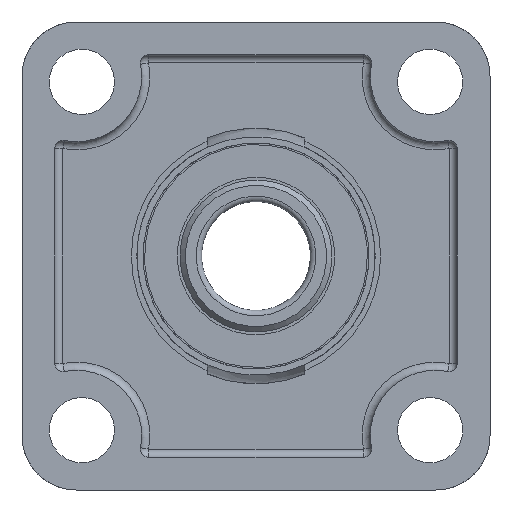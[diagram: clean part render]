
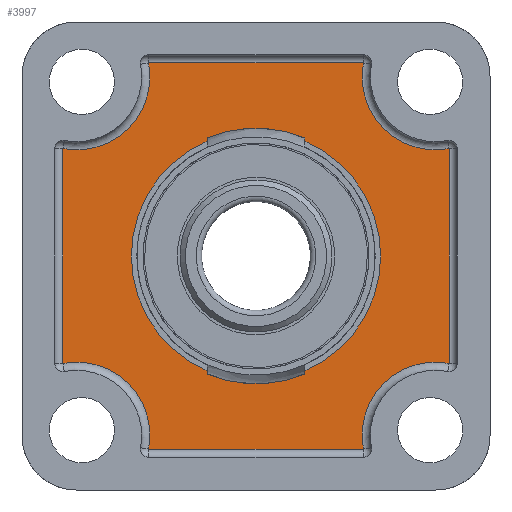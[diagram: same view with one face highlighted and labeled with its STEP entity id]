
A CAD part, front view. The second image highlights one B-rep face of the part: STEP entity #3997.
In plain terms, the highlighted planar face has unit normal (0, -1, 0).
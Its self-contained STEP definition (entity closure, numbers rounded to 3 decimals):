
#234=FACE_BOUND('',#586,.T.);
#351=FACE_OUTER_BOUND('',#585,.T.);
#585=EDGE_LOOP('',(#2647,#2648,#2649,#2650,#2651,#2652,#2653,#2654));
#586=EDGE_LOOP('',(#2655,#2656,#2657,#2658,#2659,#2660,#2661,#2662));
#857=CIRCLE('',#4312,23.5);
#860=CIRCLE('',#4317,13.5);
#861=CIRCLE('',#4318,13.5);
#862=CIRCLE('',#4319,13.5);
#863=CIRCLE('',#4320,13.5);
#864=CIRCLE('',#4321,22.909);
#865=CIRCLE('',#4322,23.5);
#866=CIRCLE('',#4323,22.909);
#1242=LINE('',#6337,#1392);
#1250=LINE('',#6357,#1400);
#1251=LINE('',#6366,#1401);
#1252=LINE('',#6370,#1402);
#1253=LINE('',#6374,#1403);
#1254=LINE('',#6378,#1404);
#1255=LINE('',#6383,#1405);
#1256=LINE('',#6387,#1406);
#1392=VECTOR('',#4937,10.);
#1400=VECTOR('',#4951,10.);
#1401=VECTOR('',#4964,10.);
#1402=VECTOR('',#4967,10.);
#1403=VECTOR('',#4970,10.);
#1404=VECTOR('',#4973,10.);
#1405=VECTOR('',#4978,10.);
#1406=VECTOR('',#4981,10.);
#1541=VERTEX_POINT('',#6333);
#1543=VERTEX_POINT('',#6336);
#1548=VERTEX_POINT('',#6347);
#1552=VERTEX_POINT('',#6355);
#1553=VERTEX_POINT('',#6364);
#1554=VERTEX_POINT('',#6365);
#1555=VERTEX_POINT('',#6367);
#1556=VERTEX_POINT('',#6369);
#1557=VERTEX_POINT('',#6371);
#1558=VERTEX_POINT('',#6373);
#1559=VERTEX_POINT('',#6375);
#1560=VERTEX_POINT('',#6377);
#1561=VERTEX_POINT('',#6380);
#1562=VERTEX_POINT('',#6382);
#1563=VERTEX_POINT('',#6384);
#1564=VERTEX_POINT('',#6386);
#1990=EDGE_CURVE('',#1543,#1541,#1242,.T.);
#2000=EDGE_CURVE('',#1548,#1552,#1250,.T.);
#2001=EDGE_CURVE('',#1552,#1543,#857,.T.);
#2004=EDGE_CURVE('',#1553,#1554,#1251,.T.);
#2005=EDGE_CURVE('',#1555,#1553,#860,.T.);
#2006=EDGE_CURVE('',#1556,#1555,#1252,.T.);
#2007=EDGE_CURVE('',#1557,#1556,#861,.T.);
#2008=EDGE_CURVE('',#1558,#1557,#1253,.T.);
#2009=EDGE_CURVE('',#1559,#1558,#862,.T.);
#2010=EDGE_CURVE('',#1560,#1559,#1254,.T.);
#2011=EDGE_CURVE('',#1554,#1560,#863,.T.);
#2012=EDGE_CURVE('',#1561,#1541,#864,.T.);
#2013=EDGE_CURVE('',#1561,#1562,#1255,.T.);
#2014=EDGE_CURVE('',#1562,#1563,#865,.T.);
#2015=EDGE_CURVE('',#1563,#1564,#1256,.T.);
#2016=EDGE_CURVE('',#1548,#1564,#866,.T.);
#2647=ORIENTED_EDGE('',*,*,#2004,.F.);
#2648=ORIENTED_EDGE('',*,*,#2005,.F.);
#2649=ORIENTED_EDGE('',*,*,#2006,.F.);
#2650=ORIENTED_EDGE('',*,*,#2007,.F.);
#2651=ORIENTED_EDGE('',*,*,#2008,.F.);
#2652=ORIENTED_EDGE('',*,*,#2009,.F.);
#2653=ORIENTED_EDGE('',*,*,#2010,.F.);
#2654=ORIENTED_EDGE('',*,*,#2011,.F.);
#2655=ORIENTED_EDGE('',*,*,#2000,.T.);
#2656=ORIENTED_EDGE('',*,*,#2001,.T.);
#2657=ORIENTED_EDGE('',*,*,#1990,.T.);
#2658=ORIENTED_EDGE('',*,*,#2012,.F.);
#2659=ORIENTED_EDGE('',*,*,#2013,.T.);
#2660=ORIENTED_EDGE('',*,*,#2014,.T.);
#2661=ORIENTED_EDGE('',*,*,#2015,.T.);
#2662=ORIENTED_EDGE('',*,*,#2016,.F.);
#3906=PLANE('',#4316);
#3997=ADVANCED_FACE('',(#351,#234),#3906,.F.);
#4312=AXIS2_PLACEMENT_3D('',#6359,#4954,#4955);
#4316=AXIS2_PLACEMENT_3D('',#6363,#4962,#4963);
#4317=AXIS2_PLACEMENT_3D('',#6368,#4965,#4966);
#4318=AXIS2_PLACEMENT_3D('',#6372,#4968,#4969);
#4319=AXIS2_PLACEMENT_3D('',#6376,#4971,#4972);
#4320=AXIS2_PLACEMENT_3D('',#6379,#4974,#4975);
#4321=AXIS2_PLACEMENT_3D('',#6381,#4976,#4977);
#4322=AXIS2_PLACEMENT_3D('',#6385,#4979,#4980);
#4323=AXIS2_PLACEMENT_3D('',#6388,#4982,#4983);
#4937=DIRECTION('',(0.,0.,1.));
#4951=DIRECTION('',(0.,0.,-1.));
#4954=DIRECTION('center_axis',(0.,1.,0.));
#4955=DIRECTION('ref_axis',(0.383,0.,-0.924));
#4962=DIRECTION('center_axis',(0.,1.,0.));
#4963=DIRECTION('ref_axis',(0.,0.,1.));
#4964=DIRECTION('',(1.,0.,0.));
#4965=DIRECTION('center_axis',(0.,-1.,0.));
#4966=DIRECTION('ref_axis',(0.707,0.,-0.707));
#4967=DIRECTION('',(0.,0.,1.));
#4968=DIRECTION('center_axis',(0.,-1.,0.));
#4969=DIRECTION('ref_axis',(0.707,0.,0.707));
#4970=DIRECTION('',(-1.,0.,0.));
#4971=DIRECTION('center_axis',(0.,-1.,0.));
#4972=DIRECTION('ref_axis',(-0.707,0.,0.707));
#4973=DIRECTION('',(0.,0.,-1.));
#4974=DIRECTION('center_axis',(0.,-1.,0.));
#4975=DIRECTION('ref_axis',(-0.707,0.,-0.707));
#4976=DIRECTION('center_axis',(0.,-1.,0.));
#4977=DIRECTION('ref_axis',(1.,0.,0.));
#4978=DIRECTION('',(0.,0.,1.));
#4979=DIRECTION('center_axis',(0.,1.,0.));
#4980=DIRECTION('ref_axis',(0.383,0.,0.924));
#4981=DIRECTION('',(0.,0.,-1.));
#4982=DIRECTION('center_axis',(0.,-1.,0.));
#4983=DIRECTION('ref_axis',(1.,0.,0.));
#6333=CARTESIAN_POINT('',(-9.,4.,-21.067));
#6336=CARTESIAN_POINT('',(-9.,4.,-21.708));
#6337=CARTESIAN_POINT('',(-9.,4.,-9.013));
#6347=CARTESIAN_POINT('',(9.,4.,-21.067));
#6355=CARTESIAN_POINT('',(9.,4.,-21.708));
#6357=CARTESIAN_POINT('',(9.,4.,-10.854));
#6359=CARTESIAN_POINT('Origin',(0.,4.,0.));
#6363=CARTESIAN_POINT('Origin',(0.,4.,
0.));
#6364=CARTESIAN_POINT('',(-19.734,4.,35.5));
#6365=CARTESIAN_POINT('',(19.734,4.,35.5));
#6366=CARTESIAN_POINT('',(-10.843,4.,35.5));
#6367=CARTESIAN_POINT('',(-35.5,4.,19.734));
#6368=CARTESIAN_POINT('Origin',(-33.,4.,33.));
#6369=CARTESIAN_POINT('',(-35.5,4.,-19.734));
#6370=CARTESIAN_POINT('',(-35.5,4.,-10.843));
#6371=CARTESIAN_POINT('',(-19.734,4.,-35.5));
#6372=CARTESIAN_POINT('Origin',(-33.,4.,-33.));
#6373=CARTESIAN_POINT('',(19.734,4.,-35.5));
#6374=CARTESIAN_POINT('',(10.843,4.,-35.5));
#6375=CARTESIAN_POINT('',(35.5,4.,-19.734));
#6376=CARTESIAN_POINT('Origin',(33.,4.,-33.));
#6377=CARTESIAN_POINT('',(35.5,4.,19.734));
#6378=CARTESIAN_POINT('',(35.5,4.,10.843));
#6379=CARTESIAN_POINT('Origin',(33.,4.,33.));
#6380=CARTESIAN_POINT('',(-9.,4.,21.067));
#6381=CARTESIAN_POINT('Origin',(0.,4.,0.));
#6382=CARTESIAN_POINT('',(-9.,4.,21.708));
#6383=CARTESIAN_POINT('',(-9.,4.,9.013));
#6384=CARTESIAN_POINT('',(9.,4.,21.708));
#6385=CARTESIAN_POINT('Origin',(0.,4.,0.));
#6386=CARTESIAN_POINT('',(9.,4.,21.067));
#6387=CARTESIAN_POINT('',(9.,4.,10.854));
#6388=CARTESIAN_POINT('Origin',(0.,4.,0.));
